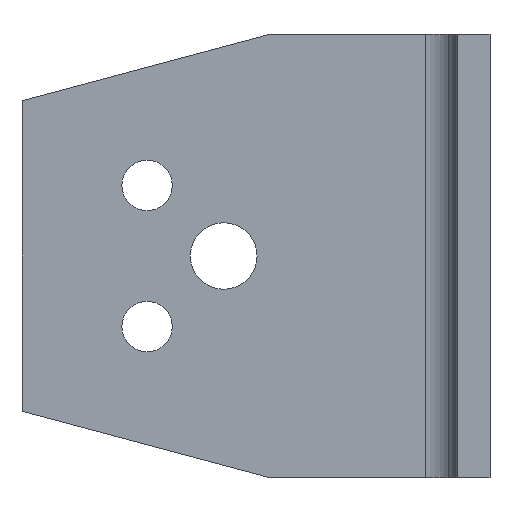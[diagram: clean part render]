
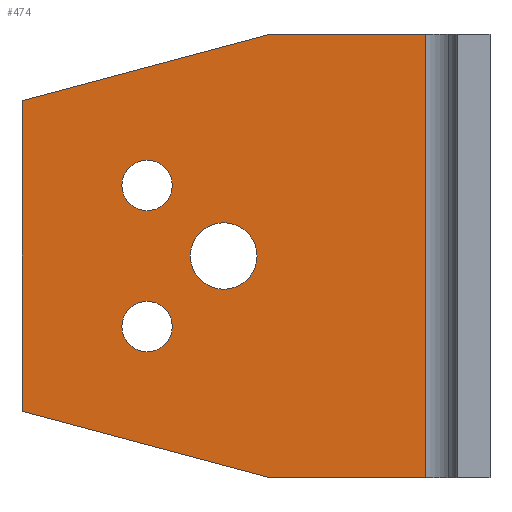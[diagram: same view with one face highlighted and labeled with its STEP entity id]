
A CAD part, left-side view. The second image highlights one B-rep face of the part: STEP entity #474.
In plain terms, the highlighted planar face has unit normal (-1, 0, 0).
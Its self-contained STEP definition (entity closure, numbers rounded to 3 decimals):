
#133=CARTESIAN_POINT('',(16.,38.,63.25));
#134=VERTEX_POINT('',#133);
#143=CARTESIAN_POINT('',(16.,38.,46.75));
#144=VERTEX_POINT('',#143);
#145=CARTESIAN_POINT('',(16.,38.,55.0));
#146=DIRECTION('',(1.0,0.0,0.0));
#147=DIRECTION('',(0.0,0.0,1.0));
#148=AXIS2_PLACEMENT_3D('',#145,#146,#147);
#149=CIRCLE('',#148,8.25);
#150=EDGE_CURVE('',#144,#134,#149,.T.);
#175=CARTESIAN_POINT('',(16.0,57.0,78.75));
#176=VERTEX_POINT('',#175);
#185=CARTESIAN_POINT('',(16.0,57.0,66.25));
#186=VERTEX_POINT('',#185);
#187=CARTESIAN_POINT('',(16.0,57.0,72.5));
#188=DIRECTION('',(1.0,0.0,0.0));
#189=DIRECTION('',(0.0,0.0,1.0));
#190=AXIS2_PLACEMENT_3D('',#187,#188,#189);
#191=CIRCLE('',#190,6.25);
#192=EDGE_CURVE('',#186,#176,#191,.T.);
#217=CARTESIAN_POINT('',(16.0,57.,43.75));
#218=VERTEX_POINT('',#217);
#227=CARTESIAN_POINT('',(16.0,57.,31.25));
#228=VERTEX_POINT('',#227);
#229=CARTESIAN_POINT('',(16.0,57.,37.5));
#230=DIRECTION('',(1.0,0.0,0.0));
#231=DIRECTION('',(0.0,0.0,1.0));
#232=AXIS2_PLACEMENT_3D('',#229,#230,#231);
#233=CIRCLE('',#232,6.25);
#234=EDGE_CURVE('',#228,#218,#233,.T.);
#259=CARTESIAN_POINT('',(16.,88.,16.5));
#260=VERTEX_POINT('',#259);
#261=CARTESIAN_POINT('',(16.,26.421,0.0));
#262=VERTEX_POINT('',#261);
#263=CARTESIAN_POINT('',(16.,88.,16.5));
#264=DIRECTION('',(0.,-0.966,-0.259));
#265=VECTOR('',#264,63.751);
#266=LINE('',#263,#265);
#267=EDGE_CURVE('',#260,#262,#266,.T.);
#299=CARTESIAN_POINT('',(16.,26.421,110.0));
#300=VERTEX_POINT('',#299);
#301=CARTESIAN_POINT('',(16.,88.,93.5));
#302=VERTEX_POINT('',#301);
#303=CARTESIAN_POINT('',(16.,26.421,110.0));
#304=DIRECTION('',(0.,0.966,-0.259));
#305=VECTOR('',#304,63.751);
#306=LINE('',#303,#305);
#307=EDGE_CURVE('',#300,#302,#306,.T.);
#340=CARTESIAN_POINT('',(16.,88.,16.5));
#341=DIRECTION('',(0.0,0.0,1.0));
#342=VECTOR('',#341,77.0);
#343=LINE('',#340,#342);
#344=EDGE_CURVE('',#260,#302,#343,.T.);
#362=CARTESIAN_POINT('',(16.,-12.,110.0));
#363=VERTEX_POINT('',#362);
#364=CARTESIAN_POINT('',(16.,-12.,110.0));
#365=DIRECTION('',(0.0,1.0,0.0));
#366=VECTOR('',#365,38.421);
#367=LINE('',#364,#366);
#368=EDGE_CURVE('',#363,#300,#367,.T.);
#419=CARTESIAN_POINT('',(16.0,-20.0,0.0));
#420=DIRECTION('',(-1.0,0.0,0.0));
#421=DIRECTION('',(0.0,0.0,1.0));
#422=AXIS2_PLACEMENT_3D('',#419,#420,#421);
#423=PLANE('',#422);
#424=ORIENTED_EDGE('',*,*,#267,.T.);
#425=CARTESIAN_POINT('',(16.,-12.,0.0));
#426=VERTEX_POINT('',#425);
#427=CARTESIAN_POINT('',(16.,26.421,0.0));
#428=DIRECTION('',(0.0,-1.0,0.0));
#429=VECTOR('',#428,38.421);
#430=LINE('',#427,#429);
#431=EDGE_CURVE('',#262,#426,#430,.T.);
#432=ORIENTED_EDGE('',*,*,#431,.T.);
#433=CARTESIAN_POINT('',(16.,-12.,110.0));
#434=DIRECTION('',(0.0,0.0,-1.0));
#435=VECTOR('',#434,110.0);
#436=LINE('',#433,#435);
#437=EDGE_CURVE('',#363,#426,#436,.T.);
#438=ORIENTED_EDGE('',*,*,#437,.F.);
#439=ORIENTED_EDGE('',*,*,#368,.T.);
#440=ORIENTED_EDGE('',*,*,#307,.T.);
#441=ORIENTED_EDGE('',*,*,#344,.F.);
#442=EDGE_LOOP('',(#424,#432,#438,#439,#440,#441));
#443=FACE_OUTER_BOUND('',#442,.T.);
#444=ORIENTED_EDGE('',*,*,#150,.T.);
#445=CARTESIAN_POINT('',(16.,38.,55.0));
#446=DIRECTION('',(1.0,0.0,0.0));
#447=DIRECTION('',(0.0,0.0,1.0));
#448=AXIS2_PLACEMENT_3D('',#445,#446,#447);
#449=CIRCLE('',#448,8.25);
#450=EDGE_CURVE('',#134,#144,#449,.T.);
#451=ORIENTED_EDGE('',*,*,#450,.T.);
#452=EDGE_LOOP('',(#444,#451));
#453=FACE_BOUND('',#452,.T.);
#454=ORIENTED_EDGE('',*,*,#192,.T.);
#455=CARTESIAN_POINT('',(16.0,57.0,72.5));
#456=DIRECTION('',(1.0,0.0,0.0));
#457=DIRECTION('',(0.0,0.0,1.0));
#458=AXIS2_PLACEMENT_3D('',#455,#456,#457);
#459=CIRCLE('',#458,6.25);
#460=EDGE_CURVE('',#176,#186,#459,.T.);
#461=ORIENTED_EDGE('',*,*,#460,.T.);
#462=EDGE_LOOP('',(#454,#461));
#463=FACE_BOUND('',#462,.T.);
#464=ORIENTED_EDGE('',*,*,#234,.T.);
#465=CARTESIAN_POINT('',(16.0,57.,37.5));
#466=DIRECTION('',(1.0,0.0,0.0));
#467=DIRECTION('',(0.0,0.0,1.0));
#468=AXIS2_PLACEMENT_3D('',#465,#466,#467);
#469=CIRCLE('',#468,6.25);
#470=EDGE_CURVE('',#218,#228,#469,.T.);
#471=ORIENTED_EDGE('',*,*,#470,.T.);
#472=EDGE_LOOP('',(#464,#471));
#473=FACE_BOUND('',#472,.T.);
#474=ADVANCED_FACE('',(#443,#453,#463,#473),#423,.T.);
